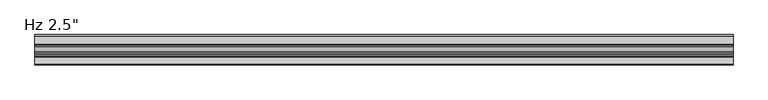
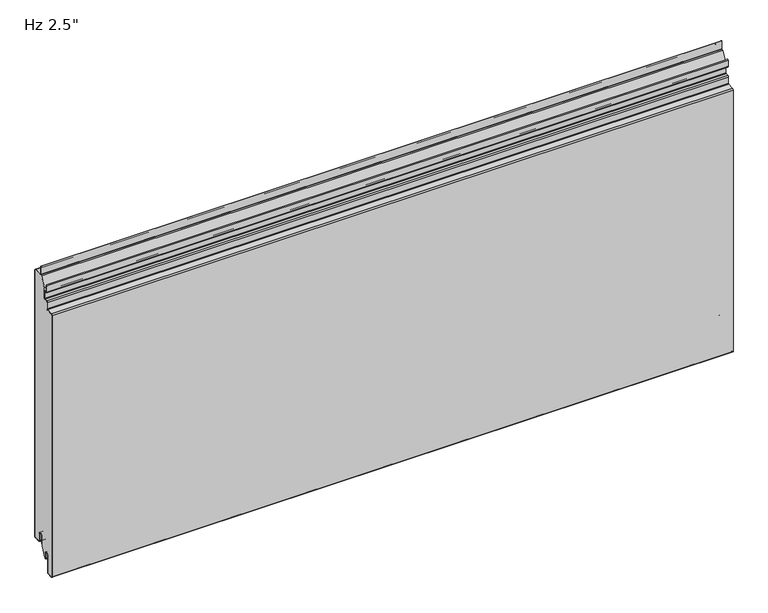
"""IFC4 building model written with IfcOpenShell, lengths in millimetres: plate geometry."""

import ifcopenshell
import ifcopenshell.guid

model = None  # the IFC model being written
_history = None  # IfcOwnerHistory: only IFC2X3 demands one
_inside = {}  # id of a spatial element -> (the spatial element, [elements in it])
_under = {}  # id of a project, library or spatial element -> (it, [spatial elements below it])
_declared = {}  # id of a project -> (the project, [libraries it declares])
_typed = {}  # id of a type object -> (the type object, [elements of that type])
_made_of = {}  # id of a material, layer set ... -> (it, [elements and type objects made of it])


def new_model(schema):
    """Start an empty IFC model of exactly this schema.

    Asked for "IFC4X3", IfcOpenShell would pick the latest addendum, in which some entities
    have other attributes; the version numbers below select the first issue.
    IFC2X3 requires an IfcOwnerHistory on every rooted entity: one is made here for all.
    """
    global model, _history
    if schema == "IFC4X3":
        model = ifcopenshell.file(schema_version=(4, 3, 0, 0))
    else:
        model = ifcopenshell.file(schema=schema)
    _inside.clear()
    _under.clear()
    _declared.clear()
    _typed.clear()
    _made_of.clear()
    _history = None
    if model.schema == "IFC2X3":
        org = make("IfcOrganization", Name="unknown")
        user = make(
            "IfcPersonAndOrganization",
            ThePerson=make("IfcPerson", FamilyName="unknown"),
            TheOrganization=org,
        )
        app = make(
            "IfcApplication",
            ApplicationDeveloper=org,
            Version="unknown",
            ApplicationFullName="unknown",
            ApplicationIdentifier="unknown",
        )
        _history = make(
            "IfcOwnerHistory",
            OwningUser=user,
            OwningApplication=app,
            ChangeAction="ADDED",
            CreationDate=0,
        )
    return model


def make(cls, **values):
    """One entity of the class cls with the attributes given. An attribute that is None is left unset."""
    return model.create_entity(
        cls, **{name: value for name, value in values.items() if value is not None}
    )


def rooted(cls, **values):
    """An entity with a GlobalId (a new one), such as an element, a storey or a relation."""
    return make(cls, GlobalId=ifcopenshell.guid.new(), OwnerHistory=_history, **values)


def si_unit(unit_type, name, prefix=None):
    """IfcSIUnit, for example si_unit("LENGTHUNIT", "METRE", prefix="MILLI")."""
    return make("IfcSIUnit", UnitType=unit_type, Prefix=prefix, Name=name)


def assignment(units):
    """IfcUnitAssignment: the units of a project."""
    return None if units is None else make("IfcUnitAssignment", Units=units)


def point(xyz):
    """IfcCartesianPoint."""
    return None if xyz is None else make("IfcCartesianPoint", Coordinates=xyz)


def direction(xyz):
    """IfcDirection."""
    return None if xyz is None else make("IfcDirection", DirectionRatios=xyz)


def frame(location, z_axis=None, x_axis=None):
    """IfcAxis2Placement3D, a coordinate frame: its origin and axes. An axis left out is left unset."""
    return make(
        "IfcAxis2Placement3D",
        Location=point(location),
        Axis=direction(z_axis),
        RefDirection=direction(x_axis),
    )


def frame_2d(location, x_axis=None):
    """IfcAxis2Placement2D, a coordinate frame in the plane: its origin and x axis."""
    return make(
        "IfcAxis2Placement2D", Location=point(location), RefDirection=direction(x_axis)
    )


def origin():
    """The frame at (0, 0, 0) with its axes left unset."""
    return frame((0.0, 0.0, 0.0))


def place(relative_to, where):
    """IfcLocalPlacement: puts the frame where relative to a parent placement (None: the world)."""
    return make(
        "IfcLocalPlacement", PlacementRelTo=relative_to, RelativePlacement=where
    )


def context(
    kind, dimensions, precision=None, world=None, true_north=None, identifier=None
):
    """IfcGeometricRepresentationContext, for example the 3D "Model" context."""
    return make(
        "IfcGeometricRepresentationContext",
        ContextIdentifier=identifier,
        ContextType=kind,
        CoordinateSpaceDimension=dimensions,
        Precision=precision,
        WorldCoordinateSystem=world,
        TrueNorth=true_north,
    )


def project(units=None, contexts=None):
    """IfcProject with its units and contexts."""
    return rooted(
        "IfcProject",
        Name="project",
        RepresentationContexts=contexts,
        UnitsInContext=assignment(units),
    )


def spatial(cls, under=None, at=None, **own):
    """A site, building, storey or space (cls), placed at a placement, below another one or the project."""
    s = rooted(cls, ObjectPlacement=at, **own)
    if under is not None:
        _under.setdefault(under.id(), (under, []))[1].append(s)
    return s


def polyline(points):
    """IfcPolyline through the points."""
    return make("IfcPolyline", Points=[point(p) for p in points])


def circle_curve(where, radius):
    """IfcCircle in the frame where."""
    return make("IfcCircle", Position=where, Radius=radius)


def ellipse_curve(where, semi_axis1, semi_axis2):
    """IfcEllipse in the frame where."""
    return make(
        "IfcEllipse", Position=where, SemiAxis1=semi_axis1, SemiAxis2=semi_axis2
    )


def trimmed(basis, trim1, trim2, sense, master):
    """IfcTrimmedCurve: the piece of a basis curve between two trims."""
    return make(
        "IfcTrimmedCurve",
        BasisCurve=basis,
        Trim1=trim1,
        Trim2=trim2,
        SenseAgreement=sense,
        MasterRepresentation=master,
    )


def segment(curve, same_sense, transition):
    """IfcCompositeCurveSegment."""
    return make(
        "IfcCompositeCurveSegment",
        Transition=transition,
        SameSense=same_sense,
        ParentCurve=curve,
    )


def composite_curve(segments, self_intersect=None):
    """IfcCompositeCurve: segments joined end to end."""
    return make("IfcCompositeCurve", Segments=segments, SelfIntersect=self_intersect)


def outline(outer, holes=None, kind="AREA"):
    """IfcArbitraryClosedProfileDef: a profile drawn as a closed curve; with holes, ...WithVoids."""
    if holes is None:
        return make("IfcArbitraryClosedProfileDef", ProfileType=kind, OuterCurve=outer)
    return make(
        "IfcArbitraryProfileDefWithVoids",
        ProfileType=kind,
        OuterCurve=outer,
        InnerCurves=holes,
    )


def extrude(swept, where, along, depth):
    """IfcExtrudedAreaSolid: the profile swept, set in the frame where, extruded along a direction by depth."""
    return make(
        "IfcExtrudedAreaSolid",
        SweptArea=swept,
        Position=where,
        ExtrudedDirection=direction(along),
        Depth=depth,
    )


def shape(context_of_items, identifier, shape_type, items):
    """IfcShapeRepresentation: the items that make up one representation, for example the "Body"."""
    return make(
        "IfcShapeRepresentation",
        ContextOfItems=context_of_items,
        RepresentationIdentifier=identifier,
        RepresentationType=shape_type,
        Items=items,
    )


def source(mapping_origin, context_of_items, identifier, shape_type, items):
    """IfcRepresentationMap: a shape defined once, which mapped items show again and again."""
    return make(
        "IfcRepresentationMap",
        MappingOrigin=mapping_origin,
        MappedRepresentation=shape(context_of_items, identifier, shape_type, items),
    )


def transform(
    local_origin,
    x_axis=None,
    y_axis=None,
    z_axis=None,
    scale=None,
    scale2=None,
    scale3=None,
    uniform=True,
):
    """IfcCartesianTransformationOperator3D, or its non-uniform kind. x_axis, y_axis, z_axis: its Axis1, 2, 3."""
    if uniform:
        return make(
            "IfcCartesianTransformationOperator3D",
            Axis1=direction(x_axis),
            Axis2=direction(y_axis),
            LocalOrigin=point(local_origin),
            Scale=scale,
            Axis3=direction(z_axis),
        )
    return make(
        "IfcCartesianTransformationOperator3DnonUniform",
        Axis1=direction(x_axis),
        Axis2=direction(y_axis),
        LocalOrigin=point(local_origin),
        Scale=scale,
        Axis3=direction(z_axis),
        Scale2=scale2,
        Scale3=scale3,
    )


def mapped(mapping_source, mapping_target):
    """IfcMappedItem: shows the shape of a source again, moved by a transform."""
    return make(
        "IfcMappedItem", MappingSource=mapping_source, MappingTarget=mapping_target
    )


def made_of(thing, what):
    """Note that an element or type object is made of a material, layer set ...; save() writes the relation."""
    if what is not None:
        _made_of.setdefault(what.id(), (what, []))[1].append(thing)
    return thing


def element(
    cls,
    number,
    at=None,
    inside=None,
    cuts=None,
    type_object=None,
    material=None,
    context=None,
    identifier="Body",
    shape_type=None,
    held_by="IfcProductDefinitionShape",
    body=None,
    shapes=None,
    **own,
):
    """One element of the class cls, such as IfcWall. Its Tag is "e" and its number.

    at: its placement. inside: the storey or other place that contains it. cuts: it is an
    opening in that element (IfcRelVoidsElement). A single representation is given by context,
    identifier, shape_type and body (its items); several are given by shapes. held_by: the class
    of the entity that holds the representations. save() writes the other relations.
    """
    e = rooted(cls, Tag="e%d" % number, ObjectPlacement=at, **own)
    if body is not None:
        shapes = [shape(context, identifier, shape_type, body)]
    if shapes is not None:
        e.Representation = make(held_by, Representations=shapes)
    if inside is not None:
        _inside.setdefault(inside.id(), (inside, []))[1].append(e)
    if cuts is not None:
        rooted(
            "IfcRelVoidsElement", RelatingBuildingElement=cuts, RelatedOpeningElement=e
        )
    if type_object is not None:
        _typed.setdefault(type_object.id(), (type_object, []))[1].append(e)
    return made_of(e, material)


def aggregate(whole, parts):
    """IfcRelAggregates: a whole, such as a stair, and the parts it consists of."""
    return rooted("IfcRelAggregates", RelatingObject=whole, RelatedObjects=parts)


def save(model, path):
    """Write the relations noted so far, then the file.

    IfcRelAggregates (storeys below a building ...), IfcRelContainedInSpatialStructure (elements
    in a storey), IfcRelDefinesByType, IfcRelAssociatesMaterial and IfcRelDeclares: one each for
    every whole, place, type object, material and project.
    """
    for whole, parts in _under.values():
        aggregate(whole, parts)
    for where, things in _inside.values():
        rooted(
            "IfcRelContainedInSpatialStructure",
            RelatedElements=things,
            RelatingStructure=where,
        )
    for kind, things in _typed.values():
        rooted("IfcRelDefinesByType", RelatedObjects=things, RelatingType=kind)
    for what, things in _made_of.values():
        rooted("IfcRelAssociatesMaterial", RelatedObjects=things, RelatingMaterial=what)
    for by, libraries in _declared.values():
        rooted("IfcRelDeclares", RelatingContext=by, RelatedDefinitions=libraries)
    model.write(path)


def plane_surface(at):
    """IfcPlane: the flat surface through the origin of the frame at, square to its z axis."""
    return make("IfcPlane", Position=at)


def cylinder_surface(at, radius):
    """IfcCylindricalSurface: all points at the distance radius from the z axis of the frame at."""
    return make("IfcCylindricalSurface", Position=at, Radius=radius)


def revolved_surface(curve, axis_point, axis_direction):
    """IfcSurfaceOfRevolution: the curve turned about the line through axis_point along axis_direction."""
    return make(
        "IfcSurfaceOfRevolution",
        SweptCurve=make("IfcArbitraryOpenProfileDef", ProfileType="CURVE", Curve=curve),
        AxisPosition=make("IfcAxis1Placement", Location=point(axis_point), Axis=direction(axis_direction)),
    )


def extruded_surface(curve, direction_of_extrusion, depth):
    """IfcSurfaceOfLinearExtrusion: the curve pushed along a direction by depth."""
    return make(
        "IfcSurfaceOfLinearExtrusion",
        SweptCurve=make("IfcArbitraryOpenProfileDef", ProfileType="CURVE", Curve=curve),
        ExtrudedDirection=direction(direction_of_extrusion),
        Depth=depth,
    )


def advanced_brep(points, edges, surfaces, faces):
    """IfcAdvancedBrep: a solid bounded by faces that lie on surfaces and meet in shared edges.

    An edge is (start, end): straight between two places in points (the first is 0);
    or (start, end, curve); or (start, end, curve, False) where it runs against its curve.
    A face is (place in surfaces, loops), or (place, loops, False) where it looks against
    its surface's normal. A loop lists edges by number (the first is 1), with a minus sign
    where the edge is run from its end to its start. The first loop is the outer one.
    """
    corners = [point(p) for p in points]
    vertices = [make("IfcVertexPoint", VertexGeometry=c) for c in corners]
    made = []
    for start, end, *more in edges:
        made.append(
            make(
                "IfcEdgeCurve",
                EdgeStart=vertices[start],
                EdgeEnd=vertices[end],
                EdgeGeometry=more[0] if more else make("IfcPolyline", Points=[corners[start], corners[end]]),
                SameSense=more[1] if len(more) > 1 else True,
            )
        )
    hull = []
    for where, loops, *sense in faces:
        bounds = []
        for j, loop in enumerate(loops):
            ring = [make("IfcOrientedEdge", EdgeElement=made[abs(k) - 1], Orientation=k > 0) for k in loop]
            bounds.append(
                make(
                    "IfcFaceOuterBound" if j == 0 else "IfcFaceBound",
                    Bound=make("IfcEdgeLoop", EdgeList=ring),
                    Orientation=True,
                )
            )
        hull.append(make("IfcAdvancedFace", Bounds=bounds, FaceSurface=surfaces[where], SameSense=sense[0] if sense else True))
    return make("IfcAdvancedBrep", Outer=make("IfcClosedShell", CfsFaces=hull))


def plate_5a420305(model_context):
    return source(origin(), model_context, "Body", "SolidModel", [
        extrude(outline(composite_curve([segment(trimmed(circle_curve(frame_2d((-21.43125, 19.05)), 4.96875), [point((-16.4625, 19.05))], [point((-26.4, 19.05))], True, "CARTESIAN"), True, "CONTINUOUS"), segment(polyline([(-26.4, 19.05), (-26.4, -3.1323422), (-36.5326309, -23.01875), (-38.1, -23.01875), (-38.1, -13.5080174), (-38.89375, -13.5080174), (-38.6875, -11.9205174)]), True, "CONTINUOUS"), segment(trimmed(circle_curve(frame_2d((-43.65625, -11.9205174)), 4.96875), [point((-38.6875, -11.9205174))], [point((-48.625, -11.9205174))], True, "CARTESIAN"), True, "CONTINUOUS"), segment(polyline([(-48.625, -11.9205174), (-48.625, -50.1038221)]), True, "CONTINUOUS"), segment(trimmed(circle_curve(frame_2d((-50.00625, -50.1038221)), 1.38125), [point((-48.625, -50.1038221))], [point((-49.933961, -51.4831791))], False, "CARTESIAN"), True, "CONTINUOUS"), segment(polyline([(-49.933961, -51.4831791), (-61.046461, -52.0655606)]), True, "CONTINUOUS"), segment(trimmed(circle_curve(frame_2d((-61.11875, -50.6862035)), 1.38125), [point((-61.046461, -52.0655606))], [point((-62.5, -50.6862035))], False, "CARTESIAN"), True, "CONTINUOUS"), segment(polyline([(-62.5, -50.6862035), (-62.5, 541.4447607)]), True, "CONTINUOUS"), segment(trimmed(circle_curve(frame_2d((-61.11875, 541.4447607)), 1.38125), [point((-62.5, 541.4447607))], [point((-61.191039, 542.8241177))], False, "CARTESIAN"), True, "CONTINUOUS"), segment(polyline([(-61.191039, 542.8241177), (-47.4895807, 543.5421807)]), True, "CONTINUOUS"), segment(trimmed(circle_curve(frame_2d((-47.625, 546.1261347)), 2.5875), [point((-47.4895807, 543.5421807))], [point((-45.0375, 546.1261347))], True, "CARTESIAN"), True, "CONTINUOUS"), segment(polyline([(-45.0375, 546.1261347), (-45.0375, 560.2824411)]), True, "CONTINUOUS"), segment(trimmed(circle_curve(frame_2d((-43.65625, 560.2824411)), 1.38125), [point((-45.0375, 560.2824411))], [point((-43.728539, 561.6617981))], False, "CARTESIAN"), True, "CONTINUOUS"), segment(polyline([(-43.728539, 561.6617981), (-37.9645807, 561.9638744)]), True, "CONTINUOUS"), segment(trimmed(circle_curve(frame_2d((-38.1, 564.5478283)), 2.5875), [point((-37.9645807, 561.9638744))], [point((-35.5125, 564.5478283))], True, "CARTESIAN"), True, "CONTINUOUS"), segment(polyline([(-35.5125, 564.5478283), (-35.5125, 586.9892934), (-24.9057308, 607.80625), (-2.38125, 607.80625)]), True, "CONTINUOUS"), segment(trimmed(circle_curve(frame_2d((-2.38125, 606.425)), 1.38125), [point((-2.38125, 607.80625))], [point((-1.0, 606.425))], False, "CARTESIAN"), True, "CONTINUOUS"), segment(polyline([(-1.0, 606.425), (-1.0, 3.175)]), True, "CONTINUOUS"), segment(trimmed(circle_curve(frame_2d((-2.38125, 3.175)), 1.38125), [point((-1.0, 3.175))], [point((-2.38125, 1.79375))], False, "CARTESIAN"), True, "CONTINUOUS"), segment(polyline([(-2.38125, 1.79375), (-15.08125, 1.79375)]), True, "CONTINUOUS"), segment(trimmed(circle_curve(frame_2d((-15.08125, 3.175)), 1.38125), [point((-15.08125, 1.79375))], [point((-16.4625, 3.175))], False, "CARTESIAN"), True, "CONTINUOUS"), segment(polyline([(-16.4625, 3.175), (-16.4625, 19.05)]), True, "CONTINUOUS")], self_intersect=False)), frame((-730.0, 0.0, 0.0), z_axis=(1.0, 0.0, 0.0), x_axis=(0.0, 1.0, 0.0)), (0.0, 0.0, 1.0), 1460.0),
        extrude(outline(composite_curve([segment(polyline([(-25.4, 0.79375), (-26.4, 0.79375), (-26.4, 19.05)]), True, "CONTINUOUS"), segment(trimmed(circle_curve(frame_2d((-21.43125, 19.05)), 4.96875), [point((-26.4, 19.05))], [point((-16.4625, 19.05))], False, "CARTESIAN"), True, "CONTINUOUS"), segment(polyline([(-16.4625, 19.05), (-16.4625, 3.175)]), True, "CONTINUOUS"), segment(trimmed(circle_curve(frame_2d((-15.08125, 3.175)), 1.38125), [point((-16.4625, 3.175))], [point((-15.08125, 1.79375))], True, "CARTESIAN"), True, "CONTINUOUS"), segment(polyline([(-15.08125, 1.79375), (-2.38125, 1.79375)]), True, "CONTINUOUS"), segment(trimmed(circle_curve(frame_2d((-2.38125, 3.175)), 1.38125), [point((-2.38125, 1.79375))], [point((-1.0, 3.175))], True, "CARTESIAN"), True, "CONTINUOUS"), segment(polyline([(-1.0, 3.175), (-1.0, 606.425)]), True, "CONTINUOUS"), segment(trimmed(circle_curve(frame_2d((-2.38125, 606.425)), 1.38125), [point((-1.0, 606.425))], [point((-2.38125, 607.80625))], True, "CARTESIAN"), True, "CONTINUOUS"), segment(polyline([(-2.38125, 607.80625), (-19.446875, 607.80625)]), True, "CONTINUOUS"), segment(trimmed(circle_curve(frame_2d((-19.446875, 610.39375)), 2.5875), [point((-19.446875, 607.80625))], [point((-22.034375, 610.39375))], False, "CARTESIAN"), True, "CONTINUOUS"), segment(polyline([(-22.034375, 610.39375), (-22.034375, 627.85625), (-21.034375, 627.85625), (-21.034375, 610.39375)]), True, "CONTINUOUS"), segment(trimmed(circle_curve(frame_2d((-19.446875, 610.39375)), 1.5875), [point((-21.034375, 610.39375))], [point((-19.446875, 608.80625))], True, "CARTESIAN"), True, "CONTINUOUS"), segment(polyline([(-19.446875, 608.80625), (-2.38125, 608.80625)]), True, "CONTINUOUS"), segment(trimmed(circle_curve(frame_2d((-2.38125, 606.425)), 2.38125), [point((-2.38125, 608.80625))], [point((0.0, 606.425))], False, "CARTESIAN"), True, "CONTINUOUS"), segment(polyline([(0.0, 606.425), (0.0, 3.175)]), True, "CONTINUOUS"), segment(trimmed(circle_curve(frame_2d((-2.38125, 3.175)), 2.38125), [point((0.0, 3.175))], [point((-2.38125, 0.79375))], False, "CARTESIAN"), True, "CONTINUOUS"), segment(polyline([(-2.38125, 0.79375), (-15.08125, 0.79375)]), True, "CONTINUOUS"), segment(trimmed(circle_curve(frame_2d((-15.08125, 3.175)), 2.38125), [point((-15.08125, 0.79375))], [point((-17.4625, 3.175))], False, "CARTESIAN"), True, "CONTINUOUS"), segment(polyline([(-17.4625, 3.175), (-17.4625, 19.05)]), True, "CONTINUOUS"), segment(trimmed(circle_curve(frame_2d((-21.43125, 19.05)), 3.96875), [point((-17.4625, 19.05))], [point((-25.4, 19.05))], True, "CARTESIAN"), True, "CONTINUOUS"), segment(polyline([(-25.4, 19.05), (-25.4, 0.79375)]), True, "CONTINUOUS")], self_intersect=False)), frame((-730.0, 0.0, 0.0), z_axis=(1.0, 0.0, 0.0), x_axis=(0.0, 1.0, 0.0)), (0.0, 0.0, 1.0), 1460.0),
        advanced_brep(
        [(-730.0, -38.1, -23.2314549), (-730.0, -39.6875, -23.2314549), (-730.0, -39.6875, -11.9205174), (-730.0, -47.625, -11.9205174), (-730.0, -47.625, -50.1038221), (-730.0, -49.881625, -52.4818086), (-730.0, -60.994125, -53.0641901), (-730.0, -63.5, -50.6862035), (-730.0, -63.5, 541.4447607), (-730.0, -61.243375, 543.8227473), (-730.0, -47.5419167, 544.5408103), (-730.0, -46.0375, 546.1261347), (-730.0, -46.0375, 560.2824411), (-730.0, -43.780875, 562.6604276), (-730.0, -38.0169167, 562.9625039), (-730.0, -36.5125, 564.5478283), (-730.0, -36.5125, 579.4232326), (-730.0, -38.1, 581.0107326), (-730.0, -42.2671875, 581.0107326), (-730.0, -44.6484375, 583.3919826), (-730.0, -44.6484375, 597.8836032), (-730.0, -42.8546875, 597.8836032), (-730.0, -42.8546875, 588.1544826), (-730.0, -43.6484375, 588.1544826), (-730.0, -43.6484375, 583.3919826), (-730.0, -42.2671875, 582.0107326), (-730.0, -38.1, 582.0107326), (-730.0, -35.5125, 579.4232326), (-730.0, -35.5125, 564.5478283), (-730.0, -37.9645807, 561.9638744), (-730.0, -43.728539, 561.6617981), (-730.0, -45.0375, 560.2824411), (-730.0, -45.0375, 546.1261347), (-730.0, -47.4895807, 543.5421807), (-730.0, -61.191039, 542.8241177), (-730.0, -62.5, 541.4447607), (-730.0, -62.5, -50.6862035), (-730.0, -61.046461, -52.0655606), (-730.0, -49.933961, -51.4831791), (-730.0, -48.625, -50.1038221), (-730.0, -48.625, -11.9205174), (-730.0, -38.6875, -11.9205174), (-730.0, -38.89375, -13.5080174), (-730.0, -38.1, -13.5080174), (730.0, -38.1, -23.2314549), (730.0, -38.1, -13.5080174), (730.0, -38.89375, -13.5080174), (730.0, -38.6875, -11.9205174), (730.0, -48.625, -11.9205174), (730.0, -48.625, -50.1038221), (730.0, -49.933961, -51.4831791), (730.0, -61.046461, -52.0655606), (730.0, -62.5, -50.6862035), (730.0, -62.5, 541.4447607), (730.0, -61.191039, 542.8241177), (730.0, -47.4895807, 543.5421807), (730.0, -45.0375, 546.1261347), (730.0, -45.0375, 560.2824411), (730.0, -43.728539, 561.6617981), (730.0, -37.9645807, 561.9638744), (730.0, -35.5125, 564.5478283), (730.0, -35.5125, 579.4232326), (730.0, -38.1, 582.0107326), (730.0, -42.2671875, 582.0107326), (730.0, -43.6484375, 583.3919826), (730.0, -43.6484375, 588.1544826), (730.0, -42.8546875, 588.1544826), (730.0, -42.8546875, 597.8836032), (730.0, -44.6484375, 597.8836032), (730.0, -44.6484375, 583.3919826), (730.0, -42.2671875, 581.0107326), (730.0, -38.1, 581.0107326), (730.0, -36.5125, 579.4232326), (730.0, -36.5125, 564.5478283), (730.0, -38.0169167, 562.9625039), (730.0, -43.780875, 562.6604276), (730.0, -46.0375, 560.2824411), (730.0, -46.0375, 546.1261347), (730.0, -47.5419167, 544.5408103), (730.0, -61.243375, 543.8227473), (730.0, -63.5, 541.4447607), (730.0, -63.5, -50.6862035), (730.0, -60.994125, -53.0641901), (730.0, -49.881625, -52.4818086), (730.0, -47.625, -50.1038221), (730.0, -47.625, -11.9205174), (730.0, -39.6875, -11.9205174), (730.0, -39.6875, -23.2314549)],
        [
            (0, 1, circle_curve(frame((-730.0, -38.89375, -23.2314549), z_axis=(-1.0, 0.0, 0.0), x_axis=(0.0, 0.0, 1.0)), 0.79375)),
            (1, 2),
            (2, 3, circle_curve(frame((-730.0, -43.65625, -11.9205174), z_axis=(1.0, 0.0, 0.0), x_axis=(0.0, 0.0, 1.0)), 3.96875)),
            (3, 4),
            (4, 5, circle_curve(frame((-730.0, -50.00625, -50.1038221), z_axis=(-1.0, 0.0, 0.0), x_axis=(0.0, 0.0, 1.0)), 2.38125)),
            (5, 6),
            (6, 7, circle_curve(frame((-730.0, -61.11875, -50.6862035), z_axis=(-1.0, 0.0, 0.0), x_axis=(0.0, 0.0, 1.0)), 2.38125)),
            (7, 8),
            (8, 9, circle_curve(frame((-730.0, -61.11875, 541.4447607), z_axis=(-1.0, 0.0, 0.0), x_axis=(0.0, 0.0, 1.0)), 2.38125)),
            (9, 10),
            (10, 11, circle_curve(frame((-730.0, -47.625, 546.1261347), z_axis=(1.0, 0.0, 0.0), x_axis=(0.0, 0.0, 1.0)), 1.5875)),
            (11, 12),
            (12, 13, circle_curve(frame((-730.0, -43.65625, 560.2824411), z_axis=(-1.0, 0.0, 0.0), x_axis=(0.0, 0.0, 1.0)), 2.38125)),
            (13, 14),
            (14, 15, circle_curve(frame((-730.0, -38.1, 564.5478283), z_axis=(1.0, 0.0, 0.0), x_axis=(0.0, 0.0, 1.0)), 1.5875)),
            (15, 16),
            (16, 17, circle_curve(frame((-730.0, -38.1, 579.4232326), z_axis=(1.0, 0.0, 0.0), x_axis=(0.0, 0.0, 1.0)), 1.5875)),
            (17, 18),
            (18, 19, circle_curve(frame((-730.0, -42.2671875, 583.3919826), z_axis=(-1.0, 0.0, 0.0), x_axis=(0.0, 0.0, 1.0)), 2.38125)),
            (19, 20),
            (20, 21, ellipse_curve(frame((-730.0, -43.7515625, 597.8836032), z_axis=(-1.0, 0.0, 0.0), x_axis=(0.0, 1.0, 0.0)), 0.896875, 0.7852275)),
            (21, 22),
            (22, 23),
            (23, 24),
            (24, 25, circle_curve(frame((-730.0, -42.2671875, 583.3919826), z_axis=(1.0, 0.0, 0.0), x_axis=(0.0, 0.0, 1.0)), 1.38125)),
            (25, 26),
            (26, 27, circle_curve(frame((-730.0, -38.1, 579.4232326), z_axis=(-1.0, 0.0, 0.0), x_axis=(0.0, 0.0, 1.0)), 2.5875)),
            (27, 28),
            (28, 29, circle_curve(frame((-730.0, -38.1, 564.5478283), z_axis=(-1.0, 0.0, 0.0), x_axis=(0.0, 0.0, 1.0)), 2.5875)),
            (29, 30),
            (30, 31, circle_curve(frame((-730.0, -43.65625, 560.2824411), z_axis=(1.0, 0.0, 0.0), x_axis=(0.0, 0.0, 1.0)), 1.38125)),
            (31, 32),
            (32, 33, circle_curve(frame((-730.0, -47.625, 546.1261347), z_axis=(-1.0, 0.0, 0.0), x_axis=(0.0, 0.0, 1.0)), 2.5875)),
            (33, 34),
            (34, 35, circle_curve(frame((-730.0, -61.11875, 541.4447607), z_axis=(1.0, 0.0, 0.0), x_axis=(0.0, 0.0, 1.0)), 1.38125)),
            (35, 36),
            (36, 37, circle_curve(frame((-730.0, -61.11875, -50.6862035), z_axis=(1.0, 0.0, 0.0), x_axis=(0.0, 0.0, 1.0)), 1.38125)),
            (37, 38),
            (38, 39, circle_curve(frame((-730.0, -50.00625, -50.1038221), z_axis=(1.0, 0.0, 0.0), x_axis=(0.0, 0.0, 1.0)), 1.38125)),
            (39, 40),
            (40, 41, circle_curve(frame((-730.0, -43.65625, -11.9205174), z_axis=(-1.0, 0.0, 0.0), x_axis=(0.0, 0.0, 1.0)), 4.96875)),
            (41, 42),
            (42, 43),
            (43, 0),
            (44, 45),
            (45, 46),
            (46, 47),
            (47, 48, circle_curve(frame((730.0, -43.65625, -11.9205174), z_axis=(1.0, 0.0, 0.0), x_axis=(0.0, 0.0, 1.0)), 4.96875)),
            (48, 49),
            (49, 50, circle_curve(frame((730.0, -50.00625, -50.1038221), z_axis=(-1.0, 0.0, 0.0), x_axis=(0.0, 0.0, 1.0)), 1.38125)),
            (50, 51),
            (51, 52, circle_curve(frame((730.0, -61.11875, -50.6862035), z_axis=(-1.0, 0.0, 0.0), x_axis=(0.0, 0.0, 1.0)), 1.38125)),
            (52, 53),
            (53, 54, circle_curve(frame((730.0, -61.11875, 541.4447607), z_axis=(-1.0, 0.0, 0.0), x_axis=(0.0, 0.0, 1.0)), 1.38125)),
            (54, 55),
            (55, 56, circle_curve(frame((730.0, -47.625, 546.1261347), z_axis=(1.0, 0.0, 0.0), x_axis=(0.0, 0.0, 1.0)), 2.5875)),
            (56, 57),
            (57, 58, circle_curve(frame((730.0, -43.65625, 560.2824411), z_axis=(-1.0, 0.0, 0.0), x_axis=(0.0, 0.0, 1.0)), 1.38125)),
            (58, 59),
            (59, 60, circle_curve(frame((730.0, -38.1, 564.5478283), z_axis=(1.0, 0.0, 0.0), x_axis=(0.0, 0.0, 1.0)), 2.5875)),
            (60, 61),
            (61, 62, circle_curve(frame((730.0, -38.1, 579.4232326), z_axis=(1.0, 0.0, 0.0), x_axis=(0.0, 0.0, 1.0)), 2.5875)),
            (62, 63),
            (63, 64, circle_curve(frame((730.0, -42.2671875, 583.3919826), z_axis=(-1.0, 0.0, 0.0), x_axis=(0.0, 0.0, 1.0)), 1.38125)),
            (64, 65),
            (65, 66),
            (66, 67),
            (67, 68, ellipse_curve(frame((730.0, -43.7515625, 597.8836032), z_axis=(1.0, 0.0, 0.0), x_axis=(0.0, 1.0, 0.0)), 0.896875, 0.7852275)),
            (68, 69),
            (69, 70, circle_curve(frame((730.0, -42.2671875, 583.3919826), z_axis=(1.0, 0.0, 0.0), x_axis=(0.0, 0.0, 1.0)), 2.38125)),
            (70, 71),
            (71, 72, circle_curve(frame((730.0, -38.1, 579.4232326), z_axis=(-1.0, 0.0, 0.0), x_axis=(0.0, 0.0, 1.0)), 1.5875)),
            (72, 73),
            (73, 74, circle_curve(frame((730.0, -38.1, 564.5478283), z_axis=(-1.0, 0.0, 0.0), x_axis=(0.0, 0.0, 1.0)), 1.5875)),
            (74, 75),
            (75, 76, circle_curve(frame((730.0, -43.65625, 560.2824411), z_axis=(1.0, 0.0, 0.0), x_axis=(0.0, 0.0, 1.0)), 2.38125)),
            (76, 77),
            (77, 78, circle_curve(frame((730.0, -47.625, 546.1261347), z_axis=(-1.0, 0.0, 0.0), x_axis=(0.0, 0.0, 1.0)), 1.5875)),
            (78, 79),
            (79, 80, circle_curve(frame((730.0, -61.11875, 541.4447607), z_axis=(1.0, 0.0, 0.0), x_axis=(0.0, 0.0, 1.0)), 2.38125)),
            (80, 81),
            (81, 82, circle_curve(frame((730.0, -61.11875, -50.6862035), z_axis=(1.0, 0.0, 0.0), x_axis=(0.0, 0.0, 1.0)), 2.38125)),
            (82, 83),
            (83, 84, circle_curve(frame((730.0, -50.00625, -50.1038221), z_axis=(1.0, 0.0, 0.0), x_axis=(0.0, 0.0, 1.0)), 2.38125)),
            (84, 85),
            (85, 86, circle_curve(frame((730.0, -43.65625, -11.9205174), z_axis=(-1.0, 0.0, 0.0), x_axis=(0.0, 0.0, 1.0)), 3.96875)),
            (86, 87),
            (87, 44, circle_curve(frame((730.0, -38.89375, -23.2314549), z_axis=(1.0, 0.0, 0.0), x_axis=(0.0, 0.0, 1.0)), 0.79375)),
            (43, 45),
            (44, 0),
            (36, 52),
            (51, 37),
            (50, 38),
            (49, 39),
            (48, 40),
            (47, 41),
            (42, 46),
            (22, 66),
            (65, 23),
            (21, 67),
            (20, 68),
            (34, 54),
            (53, 35),
            (32, 56),
            (55, 33),
            (30, 58),
            (57, 31),
            (28, 60),
            (59, 29),
            (24, 64),
            (63, 25),
            (26, 62),
            (61, 27),
            (19, 69),
            (17, 71),
            (70, 18),
            (15, 73),
            (72, 16),
            (13, 75),
            (74, 14),
            (11, 77),
            (76, 12),
            (9, 79),
            (78, 10),
            (7, 81),
            (80, 8),
            (5, 83),
            (82, 6),
            (3, 85),
            (84, 4),
            (1, 87),
            (86, 2),
        ],
        [
            plane_surface(frame((-730.0, -63.5, 304.8), z_axis=(-1.0, 0.0, 0.0), x_axis=(0.0, -1.0, 0.0))),
            plane_surface(frame((730.0, -63.5, 304.8), z_axis=(1.0, 0.0, 0.0), x_axis=(0.0, -1.0, 0.0))),
            plane_surface(frame((-730.0, -38.1, -23.2314549), z_axis=(0.0, 1.0, 0.0), x_axis=(1.0, 0.0, 0.0))),
            revolved_surface(polyline([(730.0, -61.11875, -49.304953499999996), (-730.0, -61.11875, -49.304953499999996)]), (-730.0, -61.11875, -50.6862035), (1.0, 0.0, 0.0)),
            plane_surface(frame((-730.0, -49.933961, -51.4831791), z_axis=(0.0, -0.052335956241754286, 0.9986295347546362), x_axis=(1.0, 0.0, 0.0))),
            revolved_surface(polyline([(730.0, -50.00625, -48.7225721), (-730.0, -50.00625, -48.7225721)]), (-730.0, -50.00625, -50.1038221), (1.0, 0.0, 0.0)),
            plane_surface(frame((-730.0, -48.625, -11.9205174), z_axis=(0.0, -1.0, 0.0), x_axis=(1.0, 0.0, 0.0))),
            cylinder_surface(frame((-730.0, -43.65625, -11.9205174), z_axis=(-1.0, 0.0, 0.0), x_axis=(0.0, 0.0, 1.0)), 4.96875),
            plane_surface(frame((-730.0, -38.1, -13.5080174), z_axis=(0.0, 0.0, 1.0), x_axis=(1.0, 0.0, 0.0))),
            plane_surface(frame((-730.0, -38.89375, -13.5080174), z_axis=(0.0, 0.9916655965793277, -0.12883844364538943), x_axis=(1.0, 0.0, 0.0))),
            plane_surface(frame((-730.0, -43.6484375, 588.1544826), z_axis=(0.0, 0.0, -1.0), x_axis=(1.0, 0.0, 0.0))),
            plane_surface(frame((-730.0, -42.8546875, 588.1544826), z_axis=(0.0, 1.0, 0.0), x_axis=(1.0, 0.0, 0.0))),
            extruded_surface(trimmed(ellipse_curve(frame((-730.0, -43.7515625, 597.8836032), z_axis=(1.0, 0.0, 0.0), x_axis=(0.0, 1.0, 0.0)), 0.896875, 0.7852275), [point((-730.0, -42.8546875, 597.8836032))], [point((-730.0, -44.6484375, 597.8836032))], True, "CARTESIAN"), (1460.0, 0.0, 0.0), 1460.0),
            revolved_surface(polyline([(730.0, -61.11875, 542.8260107), (-730.0, -61.11875, 542.8260107)]), (-730.0, -61.11875, 541.4447607), (1.0, 0.0, 0.0)),
            cylinder_surface(frame((-730.0, -47.625, 546.1261347), z_axis=(-1.0, 0.0, 0.0), x_axis=(0.0, 0.0, 1.0)), 2.5875),
            plane_surface(frame((-730.0, -61.191039, 542.8241177), z_axis=(0.0, 0.052335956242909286, -0.9986295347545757), x_axis=(1.0, 0.0, 0.0))),
            plane_surface(frame((-730.0, -62.5, -50.6862035), z_axis=(0.0, 1.0, 0.0), x_axis=(1.0, 0.0, 0.0))),
            revolved_surface(polyline([(730.0, -43.65625, 561.6636911), (-730.0, -43.65625, 561.6636911)]), (-730.0, -43.65625, 560.2824411), (1.0, 0.0, 0.0)),
            cylinder_surface(frame((-730.0, -38.1, 564.5478283), z_axis=(-1.0, 0.0, 0.0), x_axis=(0.0, 0.0, 1.0)), 2.5875),
            plane_surface(frame((-730.0, -43.728539, 561.6617981), z_axis=(0.0, 0.0523359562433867, -0.9986295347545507), x_axis=(1.0, 0.0, 0.0))),
            plane_surface(frame((-730.0, -45.0375, 546.1261347), z_axis=(0.0, 1.0, 0.0), x_axis=(1.0, 0.0, 0.0))),
            revolved_surface(polyline([(730.0, -42.2671875, 584.7732326), (-730.0, -42.2671875, 584.7732326)]), (-730.0, -42.2671875, 583.3919826), (1.0, 0.0, 0.0)),
            cylinder_surface(frame((-730.0, -38.1, 579.4232326), z_axis=(-1.0, 0.0, 0.0), x_axis=(0.0, 0.0, 1.0)), 2.5875),
            plane_surface(frame((-730.0, -38.1, 582.0107326), z_axis=(0.0, 0.0, 1.0), x_axis=(1.0, 0.0, 0.0))),
            plane_surface(frame((-730.0, -43.6484375, 583.3919826), z_axis=(0.0, 1.0, 0.0), x_axis=(1.0, 0.0, 0.0))),
            plane_surface(frame((-730.0, -44.6484375, 597.8836032), z_axis=(0.0, -1.0, 0.0), x_axis=(1.0, 0.0, 0.0))),
            plane_surface(frame((-730.0, -42.2671875, 581.0107326), z_axis=(0.0, 0.0, -1.0), x_axis=(1.0, 0.0, 0.0))),
            cylinder_surface(frame((-730.0, -42.2671875, 583.3919826), z_axis=(-1.0, 0.0, 0.0), x_axis=(0.0, 0.0, 1.0)), 2.38125),
            plane_surface(frame((-730.0, -35.5125, 564.5478283), z_axis=(0.0, 1.0, 0.0), x_axis=(1.0, 0.0, 0.0))),
            plane_surface(frame((-730.0, -36.5125, 579.4232326), z_axis=(0.0, -1.0, 0.0), x_axis=(1.0, 0.0, 0.0))),
            plane_surface(frame((-730.0, -38.0169167, 562.9625039), z_axis=(0.0, -0.052335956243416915, 0.9986295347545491), x_axis=(1.0, 0.0, 0.0))),
            revolved_surface(polyline([(730.0, -38.1, 566.1353283), (-730.0, -38.1, 566.1353283)]), (-730.0, -38.1, 564.5478283), (1.0, 0.0, 0.0)),
            revolved_surface(polyline([(730.0, -38.1, 581.0107326), (-730.0, -38.1, 581.0107326)]), (-730.0, -38.1, 579.4232326), (1.0, 0.0, 0.0)),
            plane_surface(frame((-730.0, -46.0375, 560.2824411), z_axis=(0.0, -1.0, 0.0), x_axis=(1.0, 0.0, 0.0))),
            plane_surface(frame((-730.0, -47.5419167, 544.5408103), z_axis=(0.0, -0.052335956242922, 0.998629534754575), x_axis=(1.0, 0.0, 0.0))),
            revolved_surface(polyline([(730.0, -47.625, 547.7136347), (-730.0, -47.625, 547.7136347)]), (-730.0, -47.625, 546.1261347), (1.0, 0.0, 0.0)),
            cylinder_surface(frame((-730.0, -43.65625, 560.2824411), z_axis=(-1.0, 0.0, 0.0), x_axis=(0.0, 0.0, 1.0)), 2.38125),
            plane_surface(frame((-730.0, -63.5, 541.4447607), z_axis=(0.0, -1.0, 0.0), x_axis=(1.0, 0.0, 0.0))),
            plane_surface(frame((-730.0, -60.994125, -53.0641901), z_axis=(0.0, 0.052335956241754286, -0.9986295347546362), x_axis=(1.0, 0.0, 0.0))),
            cylinder_surface(frame((-730.0, -61.11875, -50.6862035), z_axis=(-1.0, 0.0, 0.0), x_axis=(0.0, 0.0, 1.0)), 2.38125),
            cylinder_surface(frame((-730.0, -61.11875, 541.4447607), z_axis=(-1.0, 0.0, 0.0), x_axis=(0.0, 0.0, 1.0)), 2.38125),
            plane_surface(frame((-730.0, -47.625, -50.1038221), z_axis=(0.0, 1.0, 0.0), x_axis=(1.0, 0.0, 0.0))),
            plane_surface(frame((-730.0, -39.6875, -11.9205174), z_axis=(0.0, -1.0, 0.0), x_axis=(1.0, 0.0, 0.0))),
            revolved_surface(polyline([(730.0, -43.65625, -7.9517674), (-730.0, -43.65625, -7.9517674)]), (-730.0, -43.65625, -11.9205174), (1.0, 0.0, 0.0)),
            cylinder_surface(frame((-730.0, -50.00625, -50.1038221), z_axis=(-1.0, 0.0, 0.0), x_axis=(0.0, 0.0, 1.0)), 2.38125),
            cylinder_surface(frame((-730.0, -38.89375, -23.2314549), z_axis=(-1.0, 0.0, 0.0), x_axis=(0.0, 0.0, 1.0)), 0.79375),
        ],
        [
            (0, [[1, 2, 3, 4, 5, 6, 7, 8, 9, 10, 11, 12, 13, 14, 15, 16, 17, 18, 19, 20, 21, 22, 23, 24, 25, 26, 27, 28, 29, 30, 31, 32, 33, 34, 35, 36, 37, 38, 39, 40, 41, 42, 43, 44]]),
            (1, [[45, 46, 47, 48, 49, 50, 51, 52, 53, 54, 55, 56, 57, 58, 59, 60, 61, 62, 63, 64, 65, 66, 67, 68, 69, 70, 71, 72, 73, 74, 75, 76, 77, 78, 79, 80, 81, 82, 83, 84, 85, 86, 87, 88]]),
            (2, [[89, -45, 90, -44]]),
            (3, [[91, -52, 92, -37]]),
            (4, [[-92, -51, 93, -38]]),
            (5, [[-93, -50, 94, -39]]),
            (6, [[-94, -49, 95, -40]]),
            (7, [[-95, -48, 96, -41]]),
            (8, [[97, -46, -89, -43]]),
            (9, [[-96, -47, -97, -42]]),
            (10, [[98, -66, 99, -23]]),
            (11, [[100, -67, -98, -22]]),
            (12, [[101, -68, -100, -21]]),
            (13, [[102, -54, 103, -35]]),
            (14, [[104, -56, 105, -33]]),
            (15, [[-105, -55, -102, -34]]),
            (16, [[-103, -53, -91, -36]]),
            (17, [[106, -58, 107, -31]]),
            (18, [[108, -60, 109, -29]]),
            (19, [[-109, -59, -106, -30]]),
            (20, [[-107, -57, -104, -32]]),
            (21, [[110, -64, 111, -25]]),
            (22, [[112, -62, 113, -27]]),
            (23, [[-111, -63, -112, -26]]),
            (24, [[-99, -65, -110, -24]]),
            (25, [[114, -69, -101, -20]]),
            (26, [[115, -71, 116, -18]]),
            (27, [[-116, -70, -114, -19]]),
            (28, [[-113, -61, -108, -28]]),
            (29, [[117, -73, 118, -16]]),
            (30, [[119, -75, 120, -14]]),
            (31, [[-120, -74, -117, -15]]),
            (32, [[-118, -72, -115, -17]]),
            (33, [[121, -77, 122, -12]]),
            (34, [[123, -79, 124, -10]]),
            (35, [[-124, -78, -121, -11]]),
            (36, [[-122, -76, -119, -13]]),
            (37, [[125, -81, 126, -8]]),
            (38, [[127, -83, 128, -6]]),
            (39, [[-128, -82, -125, -7]]),
            (40, [[-126, -80, -123, -9]]),
            (41, [[129, -85, 130, -4]]),
            (42, [[131, -87, 132, -2]]),
            (43, [[-132, -86, -129, -3]]),
            (44, [[-130, -84, -127, -5]]),
            (45, [[-90, -88, -131, -1]]),
        ],
    ),
    ])


if __name__ == "__main__":
    model = new_model("IFC4")
    model_context = context("Model", 3, world=origin())
    ifc_project = project(units=[si_unit("LENGTHUNIT", "METRE", prefix="MILLI")], contexts=[model_context])
    site = spatial("IfcSite", under=ifc_project)
    building = spatial("IfcBuilding", under=site)
    placement = place(None, origin())
    plate_shape = plate_5a420305(model_context)
    element("IfcPlate", 1, ObjectType="KIP-24-DWHR-R19-CP-Hz-F : Hz 2.5\"", at=placement, inside=building, context=model_context, shape_type="MappedRepresentation", body=[
        mapped(plate_shape, transform((0.0, 0.0, 0.0), x_axis=(1.0, 0.0, 0.0), y_axis=(0.0, 1.0, 0.0), z_axis=(0.0, 0.0, 1.0))),
    ])
    save(model, "model.ifc")
